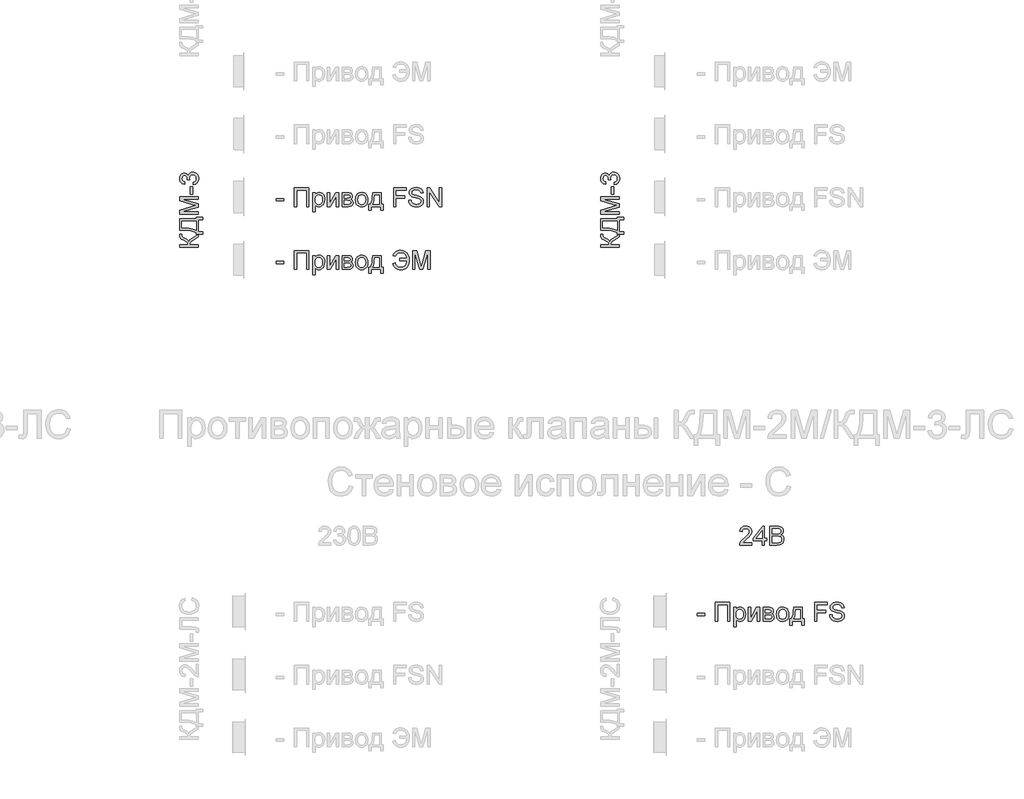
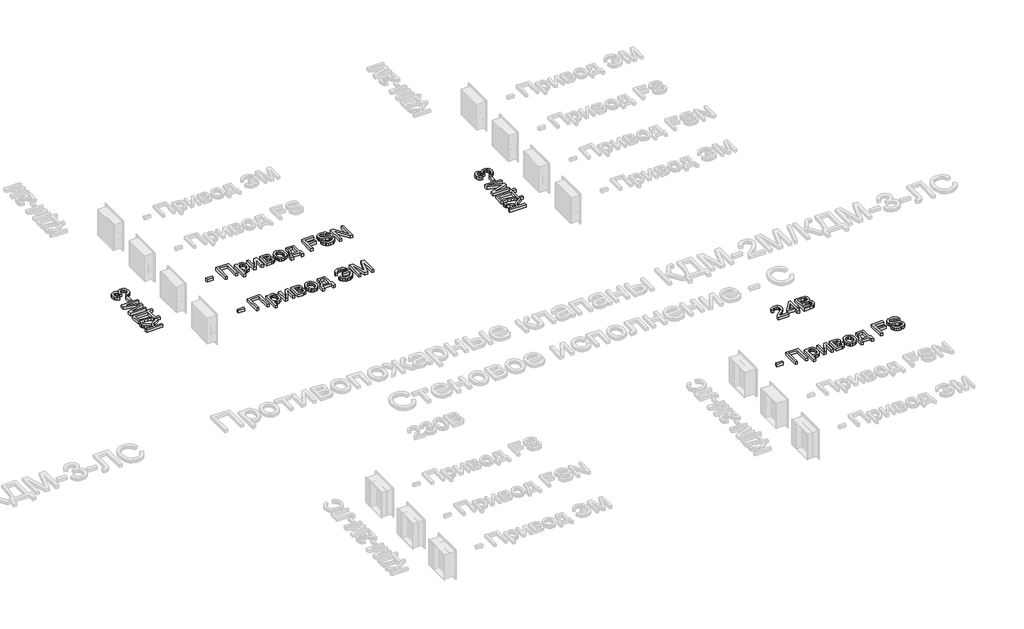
# One storey, part 18 of 23: 6 proxies.
"""IFC4 building model written with IfcOpenShell, lengths in millimetres."""

from ifc_helpers import new_model, si_unit, origin, origin_with_axes, place, context, project, spatial, polyline, outline, extrude, element, save

model = new_model("IFC4")

# Units and contexts
model_context = context("Model", 3, world=origin())
ifc_project = project(units=[si_unit("LENGTHUNIT", "METRE", prefix="MILLI")], contexts=[model_context])

# Site, building, storey
site = spatial("IfcSite", under=ifc_project)
building = spatial("IfcBuilding", under=site)
storey = spatial("IfcBuildingStorey", under=building, Name="Этаж 01", Elevation=0.0)

# Proxies
placement = place(None, origin())
element("IfcBuildingElementProxy", 1, Name="300 мм Arial", ObjectType="300 мм Arial", at=placement, inside=storey, context=model_context, shape_type="SweptSolid", body=[
    extrude(outline(polyline([(17804.7738082, -8434.3206311), (17804.7738082, -8396.6495148), (17922.4960467, -8396.6495148), (17922.4960467, -8434.3206311), (17804.7738082, -8434.3206311)])), origin_with_axes(), (0.0, 0.0, 1.0), 50.0),
    extrude(outline(polyline([(18087.3071805, -8222.4206019), (18322.7516574, -8222.4206019), (18322.7516574, -8523.7895324), (18285.0805411, -8523.7895324), (18285.0805411, -8260.0917182), (18124.9782968, -8260.0917182), (18124.9782968, -8523.7895324), (18087.3071805, -8523.7895324), (18087.3071805, -8222.4206019)])), origin_with_axes(), (0.0, 0.0, 1.0), 50.0),
    extrude(outline(polyline([(18383.9672214, -8608.5495441), (18383.9672214, -8302.4717241), (18421.6383378, -8302.4717241), (18421.6383378, -8339.4070764), (18433.9255964, -8321.1877206), (18447.684383, -8308.173895), (18463.724038, -8300.3655996), (18482.8539017, -8297.7628345), (18508.3297299, -8301.4048663), (18530.6049847, -8312.3309615), (18548.7415671, -8329.8789327), (18561.8013779, -8353.3865922), (18569.6924467, -8381.1432887), (18572.322803, -8411.438371), (18569.3521559, -8443.6556368), (18560.4402145, -8472.469994), (18545.8720875, -8496.4191119), (18525.9328834, -8514.0406595), (18502.7103324, -8524.8839813), (18478.292165, -8528.4984219), (18460.9741201, -8526.0795978), (18445.5138792, -8518.8231254), (18432.2793245, -8507.869439), (18421.6383378, -8494.3589728), (18421.6383378, -8608.5495441), (18383.9672214, -8608.5495441)]), holes=[polyline([(18421.6383378, -8414.8964618), (18425.7126308, -8448.668029), (18437.9355101, -8472.286053), (18455.970925, -8486.1919925), (18477.4828246, -8490.8273056), (18499.3442122, -8486.0264456), (18517.8394795, -8471.6238655), (18530.4486349, -8447.1413187), (18534.6516867, -8412.1005586), (18530.5498024, -8378.5129325), (18518.2441497, -8354.5638146), (18500.236326, -8340.2164168), (18479.027929, -8335.4339508), (18457.7367585, -8340.5199194), (18439.0391561, -8355.7778252), (18425.9885423, -8380.7294215), (18421.6383378, -8414.8964618)])]), origin_with_axes(), (0.0, 0.0, 1.0), 50.0),
    extrude(outline(polyline([(18614.7028088, -8302.4717241), (18652.3739251, -8302.4717241), (18652.3739251, -8471.2559835), (18744.9330351, -8302.4717241), (18793.6406113, -8302.4717241), (18793.6406113, -8523.7895324), (18755.969495, -8523.7895324), (18755.969495, -8356.0353426), (18663.9989962, -8523.7895324), (18614.7028088, -8523.7895324), (18614.7028088, -8302.4717241)])), origin_with_axes(), (0.0, 0.0, 1.0), 50.0),
    extrude(outline(polyline([(18850.1472857, -8302.4717241), (18933.1414638, -8302.4717241), (18959.8221055, -8303.7317199), (18978.6484666, -8307.5117074), (18992.4992238, -8314.6486181), (19004.2530535, -8325.9793836), (19012.2820781, -8340.7406486), (19014.9584196, -8358.1690581), (19013.3397388, -8372.2129533), (19008.4836965, -8384.325468), (19000.3718985, -8394.5617845), (18988.9859507, -8402.9770852), (19002.9286783, -8410.8037746), (19014.296232, -8423.3945359), (19021.856207, -8439.7560876), (19024.3761986, -8458.8951484), (19017.993446, -8487.6083381), (19002.8183137, -8507.8234538), (18978.7956194, -8519.7980127), (18945.8701809, -8523.7895324), (18850.1472857, -8523.7895324), (18850.1472857, -8302.4717241)]), holes=[polyline([(18887.818402, -8486.1184161), (18934.0243806, -8486.1184161), (18959.2059032, -8484.4169618), (18975.0064349, -8479.3125992), (18983.4861149, -8470.0327758), (18986.7050823, -8455.8049397), (18985.0955986, -8446.3779635), (18980.2671474, -8437.6683573), (18972.8543252, -8430.8533433), (18963.4917284, -8427.110144), (18930.3455607, -8424.9028521), (18887.818402, -8424.9028521), (18887.818402, -8486.1184161)]), polyline([(18887.818402, -8387.2317358), (18925.04806, -8387.2317358), (18955.7662065, -8385.3187494), (18970.7022156, -8377.6668039), (18975.6410313, -8371.3392336), (18977.2873033, -8363.8344409), (18974.3994296, -8352.5956459), (18965.7358086, -8345.3667647), (18950.0824297, -8341.4488215), (18926.2252823, -8340.1428404), (18887.818402, -8340.1428404), (18887.818402, -8387.2317358)])]), origin_with_axes(), (0.0, 0.0, 1.0), 50.0),
    extrude(outline(polyline([(19062.047315, -8413.1306282), (19064.0844615, -8384.4680223), (19070.1959011, -8359.7693448), (19080.3816339, -8339.0345959), (19094.6416597, -8322.2637754), (19108.9982546, -8311.5446138), (19124.8447715, -8303.8880698), (19142.1812106, -8299.2941433), (19161.0075717, -8297.7628345), (19181.7906051, -8299.6275364), (19200.5824773, -8305.221642), (19217.3831882, -8314.5451513), (19232.1927377, -8327.5980643), (19244.2799605, -8343.9389227), (19252.9136911, -8363.126268), (19258.0939294, -8385.1601003), (19259.8206756, -8410.0404195), (19256.767255, -8448.0978119), (19247.6069933, -8477.068519), (19232.606605, -8498.7643596), (19212.0328044, -8514.9971527), (19187.5962429, -8525.1231046), (19161.0075717, -8528.4984219), (19139.9210355, -8526.6406178), (19120.9544194, -8521.0672056), (19104.1077233, -8511.7781852), (19089.3809472, -8498.7735567), (19077.4224831, -8482.2740492), (19068.880723, -8462.500392), (19063.755667, -8439.452585), (19062.047315, -8413.1306282)]), holes=[polyline([(19099.7184313, -8413.0570518), (19104.0778329, -8447.1505157), (19117.1560378, -8471.4399245), (19136.8377246, -8485.9804603), (19161.0075717, -8490.8273056), (19185.0670541, -8485.9528692), (19204.7119527, -8471.3295599), (19217.7901576, -8446.7182544), (19222.1495593, -8411.8798294), (19217.7625665, -8378.7796469), (19204.6015881, -8354.821332), (19184.9290984, -8340.2807961), (19161.0075717, -8335.4339508), (19136.8377246, -8340.262402), (19117.1560378, -8354.7477556), (19104.0778329, -8378.981982), (19099.7184313, -8413.0570518)])]), origin_with_axes(), (0.0, 0.0, 1.0), 50.0),
    extrude(outline(polyline([(19335.1629082, -8302.4717241), (19476.4295943, -8302.4717241), (19476.4295943, -8486.1184161), (19504.6829316, -8486.1184161), (19504.6829316, -8585.0050964), (19467.0118152, -8585.0050964), (19467.0118152, -8523.7895324), (19311.6184605, -8523.7895324), (19311.6184605, -8585.0050964), (19273.9473442, -8585.0050964), (19273.9473442, -8486.1184161), (19297.4917919, -8486.1184161), (19314.6075017, -8455.1887373), (19326.5912577, -8414.2710624), (19333.4430598, -8363.3653913), (19335.1629082, -8302.4717241)]), holes=[polyline([(19368.1251349, -8340.1428404), (19365.0349262, -8386.2660455), (19359.2959671, -8425.9697099), (19350.9082576, -8459.2538334), (19339.8717977, -8486.1184161), (19438.758478, -8486.1184161), (19438.758478, -8340.1428404), (19368.1251349, -8340.1428404)])]), origin_with_axes(), (0.0, 0.0, 1.0), 50.0),
    extrude(outline(polyline([(19669.4940654, -8523.7895324), (19669.4940654, -8222.4206019), (19871.9763155, -8222.4206019), (19871.9763155, -8260.0917182), (19707.1651817, -8260.0917182), (19707.1651817, -8349.5606195), (19848.4318678, -8349.5606195), (19848.4318678, -8387.2317358), (19707.1651817, -8387.2317358), (19707.1651817, -8523.7895324), (19669.4940654, -8523.7895324)])), origin_with_axes(), (0.0, 0.0, 1.0), 50.0),
    extrude(outline(polyline([(19909.6474318, -8420.1939625), (19947.3185481, -8420.1939625), (19951.6411616, -8441.0988569), (19959.458654, -8457.901867), (19971.6539421, -8471.2375894), (19989.1099428, -8481.7406203), (20010.4470985, -8488.5556343), (20034.2858518, -8490.8273056), (20055.2735196, -8489.1074573), (20073.6492253, -8483.9479123), (20088.539249, -8475.780932), (20099.0698712, -8465.0387777), (20105.3330621, -8452.7055339), (20107.4207924, -8439.7652847), (20105.857294, -8427.1561293), (20101.1667985, -8416.2576252), (20091.6386549, -8406.9594078), (20075.5622117, -8399.1511124), (20020.7110062, -8384.7669264), (19984.7045559, -8375.2479798), (19961.665946, -8366.1888856), (19942.9131613, -8353.5153509), (19929.6234242, -8338.1562776), (19921.7047642, -8320.4427595), (19919.0652109, -8300.7058905), (19922.3301636, -8278.6421678), (19932.1250217, -8258.0683673), (19948.1922679, -8240.6307607), (19970.2743846, -8227.97562), (19996.7802824, -8220.2776893), (20026.1188715, -8217.7117124), (20057.9038759, -8220.3972509), (20085.7157547, -8228.4538666), (20108.5612266, -8241.7160126), (20125.4470102, -8260.0181418), (20136.1339822, -8282.2198202), (20140.3830192, -8307.1806136), (20102.7119029, -8307.1806136), (20095.7957214, -8284.7030237), (20081.3747472, -8268.4794277), (20058.841975, -8258.6569784), (20027.5903995, -8255.3828287), (19995.60306, -8258.6201902), (19973.658899, -8268.3322749), (19960.9669702, -8282.6244904), (19956.7363272, -8299.6022445), (19959.7345655, -8314.078401), (19968.7292803, -8325.7218662), (19989.9928596, -8336.1329266), (20030.2391499, -8346.7647163), (20071.7730271, -8356.8630771), (20096.8993674, -8365.6738508), (20118.3744789, -8379.340667), (20133.3564731, -8396.2080564), (20142.1580498, -8416.0920783), (20145.0919088, -8438.8087915), (20141.7165914, -8462.0313424), (20131.5906395, -8483.8743359), (20115.1279202, -8502.6731058), (20092.7423008, -8516.7629863), (20065.8225358, -8525.564563), (20035.7573798, -8528.4984219), (19998.8496186, -8525.3346367), (19968.4717629, -8515.8432813), (19944.2743246, -8499.9875673), (19925.907816, -8477.7307066), (19914.1171981, -8450.6178035), (19909.6474318, -8420.1939625)])), origin_with_axes(), (0.0, 0.0, 1.0), 50.0),
    extrude(outline(polyline([(20201.5985832, -8523.7895324), (20201.5985832, -8222.4206019), (20241.9184499, -8222.4206019), (20399.3719438, -8461.1760168), (20399.3719438, -8222.4206019), (20437.0430601, -8222.4206019), (20437.0430601, -8523.7895324), (20396.7231935, -8523.7895324), (20239.2696995, -8284.9605411), (20239.2696995, -8523.7895324), (20201.5985832, -8523.7895324)])), origin_with_axes(), (0.0, 0.0, 1.0), 50.0),
])
element("IfcBuildingElementProxy", 2, Name="300 мм Arial", ObjectType="300 мм Arial", at=placement, inside=storey, context=model_context, shape_type="SweptSolid", body=[
    extrude(outline(polyline([(17804.7738082, -9434.3206311), (17804.7738082, -9396.6495148), (17922.4960467, -9396.6495148), (17922.4960467, -9434.3206311), (17804.7738082, -9434.3206311)])), origin_with_axes(), (0.0, 0.0, 1.0), 50.0),
    extrude(outline(polyline([(18087.3071805, -9222.4206019), (18322.7516574, -9222.4206019), (18322.7516574, -9523.7895324), (18285.0805411, -9523.7895324), (18285.0805411, -9260.0917182), (18124.9782968, -9260.0917182), (18124.9782968, -9523.7895324), (18087.3071805, -9523.7895324), (18087.3071805, -9222.4206019)])), origin_with_axes(), (0.0, 0.0, 1.0), 50.0),
    extrude(outline(polyline([(18383.9672214, -9608.5495441), (18383.9672214, -9302.4717241), (18421.6383378, -9302.4717241), (18421.6383378, -9339.4070764), (18433.9255964, -9321.1877206), (18447.684383, -9308.173895), (18463.724038, -9300.3655996), (18482.8539017, -9297.7628345), (18508.3297299, -9301.4048663), (18530.6049847, -9312.3309615), (18548.7415671, -9329.8789327), (18561.8013779, -9353.3865922), (18569.6924467, -9381.1432887), (18572.322803, -9411.438371), (18569.3521559, -9443.6556368), (18560.4402145, -9472.469994), (18545.8720875, -9496.4191119), (18525.9328834, -9514.0406595), (18502.7103324, -9524.8839813), (18478.292165, -9528.4984219), (18460.9741201, -9526.0795978), (18445.5138792, -9518.8231254), (18432.2793245, -9507.869439), (18421.6383378, -9494.3589728), (18421.6383378, -9608.5495441), (18383.9672214, -9608.5495441)]), holes=[polyline([(18421.6383378, -9414.8964618), (18425.7126308, -9448.668029), (18437.9355101, -9472.286053), (18455.970925, -9486.1919925), (18477.4828246, -9490.8273056), (18499.3442122, -9486.0264456), (18517.8394795, -9471.6238655), (18530.4486349, -9447.1413187), (18534.6516867, -9412.1005586), (18530.5498024, -9378.5129325), (18518.2441497, -9354.5638146), (18500.236326, -9340.2164168), (18479.027929, -9335.4339508), (18457.7367585, -9340.5199194), (18439.0391561, -9355.7778252), (18425.9885423, -9380.7294215), (18421.6383378, -9414.8964618)])]), origin_with_axes(), (0.0, 0.0, 1.0), 50.0),
    extrude(outline(polyline([(18614.7028088, -9302.4717241), (18652.3739251, -9302.4717241), (18652.3739251, -9471.2559835), (18744.9330351, -9302.4717241), (18793.6406113, -9302.4717241), (18793.6406113, -9523.7895324), (18755.969495, -9523.7895324), (18755.969495, -9356.0353426), (18663.9989962, -9523.7895324), (18614.7028088, -9523.7895324), (18614.7028088, -9302.4717241)])), origin_with_axes(), (0.0, 0.0, 1.0), 50.0),
    extrude(outline(polyline([(18850.1472857, -9302.4717241), (18933.1414638, -9302.4717241), (18959.8221055, -9303.7317199), (18978.6484666, -9307.5117074), (18992.4992238, -9314.6486181), (19004.2530535, -9325.9793836), (19012.2820781, -9340.7406486), (19014.9584196, -9358.1690581), (19013.3397388, -9372.2129533), (19008.4836965, -9384.325468), (19000.3718985, -9394.5617845), (18988.9859507, -9402.9770852), (19002.9286783, -9410.8037746), (19014.296232, -9423.3945359), (19021.856207, -9439.7560876), (19024.3761986, -9458.8951484), (19017.993446, -9487.6083381), (19002.8183137, -9507.8234538), (18978.7956194, -9519.7980127), (18945.8701809, -9523.7895324), (18850.1472857, -9523.7895324), (18850.1472857, -9302.4717241)]), holes=[polyline([(18887.818402, -9486.1184161), (18934.0243806, -9486.1184161), (18959.2059032, -9484.4169618), (18975.0064349, -9479.3125992), (18983.4861149, -9470.0327758), (18986.7050823, -9455.8049397), (18985.0955986, -9446.3779635), (18980.2671474, -9437.6683573), (18972.8543252, -9430.8533433), (18963.4917284, -9427.110144), (18930.3455607, -9424.9028521), (18887.818402, -9424.9028521), (18887.818402, -9486.1184161)]), polyline([(18887.818402, -9387.2317358), (18925.04806, -9387.2317358), (18955.7662065, -9385.3187494), (18970.7022156, -9377.6668039), (18975.6410313, -9371.3392336), (18977.2873033, -9363.8344409), (18974.3994296, -9352.5956459), (18965.7358086, -9345.3667647), (18950.0824297, -9341.4488215), (18926.2252823, -9340.1428404), (18887.818402, -9340.1428404), (18887.818402, -9387.2317358)])]), origin_with_axes(), (0.0, 0.0, 1.0), 50.0),
    extrude(outline(polyline([(19062.047315, -9413.1306282), (19064.0844615, -9384.4680223), (19070.1959011, -9359.7693448), (19080.3816339, -9339.0345959), (19094.6416597, -9322.2637754), (19108.9982546, -9311.5446138), (19124.8447715, -9303.8880698), (19142.1812106, -9299.2941433), (19161.0075717, -9297.7628345), (19181.7906051, -9299.6275364), (19200.5824773, -9305.221642), (19217.3831882, -9314.5451513), (19232.1927377, -9327.5980643), (19244.2799605, -9343.9389227), (19252.9136911, -9363.126268), (19258.0939294, -9385.1601003), (19259.8206756, -9410.0404195), (19256.767255, -9448.0978119), (19247.6069933, -9477.068519), (19232.606605, -9498.7643596), (19212.0328044, -9514.9971527), (19187.5962429, -9525.1231046), (19161.0075717, -9528.4984219), (19139.9210355, -9526.6406178), (19120.9544194, -9521.0672056), (19104.1077233, -9511.7781852), (19089.3809472, -9498.7735567), (19077.4224831, -9482.2740492), (19068.880723, -9462.500392), (19063.755667, -9439.452585), (19062.047315, -9413.1306282)]), holes=[polyline([(19099.7184313, -9413.0570518), (19104.0778329, -9447.1505157), (19117.1560378, -9471.4399245), (19136.8377246, -9485.9804603), (19161.0075717, -9490.8273056), (19185.0670541, -9485.9528692), (19204.7119527, -9471.3295599), (19217.7901576, -9446.7182544), (19222.1495593, -9411.8798294), (19217.7625665, -9378.7796469), (19204.6015881, -9354.821332), (19184.9290984, -9340.2807961), (19161.0075717, -9335.4339508), (19136.8377246, -9340.262402), (19117.1560378, -9354.7477556), (19104.0778329, -9378.981982), (19099.7184313, -9413.0570518)])]), origin_with_axes(), (0.0, 0.0, 1.0), 50.0),
    extrude(outline(polyline([(19335.1629082, -9302.4717241), (19476.4295943, -9302.4717241), (19476.4295943, -9486.1184161), (19504.6829316, -9486.1184161), (19504.6829316, -9585.0050964), (19467.0118152, -9585.0050964), (19467.0118152, -9523.7895324), (19311.6184605, -9523.7895324), (19311.6184605, -9585.0050964), (19273.9473442, -9585.0050964), (19273.9473442, -9486.1184161), (19297.4917919, -9486.1184161), (19314.6075017, -9455.1887373), (19326.5912577, -9414.2710624), (19333.4430598, -9363.3653913), (19335.1629082, -9302.4717241)]), holes=[polyline([(19368.1251349, -9340.1428404), (19365.0349262, -9386.2660455), (19359.2959671, -9425.9697099), (19350.9082576, -9459.2538334), (19339.8717977, -9486.1184161), (19438.758478, -9486.1184161), (19438.758478, -9340.1428404), (19368.1251349, -9340.1428404)])]), origin_with_axes(), (0.0, 0.0, 1.0), 50.0),
    extrude(outline(polyline([(19768.3807457, -9349.5606195), (19881.3940946, -9349.5606195), (19878.6947605, -9329.0121108), (19873.0983556, -9310.7030837), (19864.6048801, -9294.6335383), (19853.2143338, -9280.8034746), (19839.1520445, -9269.681942), (19822.64334, -9261.7379902), (19803.6882202, -9256.9716191), (19782.2866851, -9255.3828287), (19751.8674426, -9259.2088014), (19727.6378147, -9270.6867197), (19709.5978014, -9289.8165834), (19697.7474026, -9316.5983927), (19660.0762863, -9307.1806136), (19666.8637091, -9287.2873947), (19676.1895177, -9269.6934383), (19688.053712, -9254.3987444), (19702.4562922, -9241.4033129), (19719.0799598, -9231.0382377), (19737.6074168, -9223.6346125), (19758.0386631, -9219.1924374), (19780.3736987, -9217.7117124), (19821.4477235, -9223.1471689), (19856.3781189, -9239.4535383), (19884.1256184, -9264.2119966), (19903.6509553, -9295.0037196), (19915.211647, -9330.6054997), (19919.0652109, -9369.7941292), (19917.8925871, -9402.0136942), (19912.0938471, -9431.5707132), (19901.6689911, -9458.4651863), (19886.6180189, -9482.6971135), (19866.9777189, -9502.7351859), (19842.7848792, -9517.0480948), (19814.0394998, -9525.6358401), (19780.7415807, -9528.4984219), (19757.0545788, -9526.9533175), (19735.6576422, -9522.3180044), (19716.5507711, -9514.5924825), (19699.7339654, -9503.7767518), (19685.2072251, -9489.8708124), (19672.9705502, -9472.8746642), (19663.0239408, -9452.7883073), (19655.3673968, -9429.6117416), (19693.0385131, -9420.1939625), (19705.7672301, -9451.0960501), (19725.3385523, -9473.1689698), (19751.7524795, -9486.4127217), (19785.0090119, -9490.8273056), (19804.7182898, -9489.0936617), (19822.5697636, -9483.89273), (19838.5634333, -9475.2245105), (19852.699299, -9463.0890032), (19864.3979464, -9447.9460605), (19873.0799615, -9430.2555351), (19878.7453442, -9410.0174268), (19881.3940946, -9387.2317358), (19768.3807457, -9387.2317358), (19768.3807457, -9349.5606195)])), origin_with_axes(), (0.0, 0.0, 1.0), 50.0),
    extrude(outline(polyline([(19970.8629958, -9523.7895324), (19970.8629958, -9222.4206019), (20035.6838034, -9222.4206019), (20097.3408258, -9434.8356659), (20109.7752372, -9479.2022346), (20123.2397182, -9431.156846), (20183.866671, -9222.4206019), (20248.6874786, -9222.4206019), (20248.6874786, -9523.7895324), (20211.0163623, -9523.7895324), (20211.0163623, -9260.0917182), (20135.3062477, -9523.7895324), (20084.2442268, -9523.7895324), (20008.5341121, -9260.0917182), (20008.5341121, -9523.7895324), (19970.8629958, -9523.7895324)])), origin_with_axes(), (0.0, 0.0, 1.0), 50.0),
])
element("IfcBuildingElementProxy", 3, Name="300 мм Arial", ObjectType="300 мм Arial", at=placement, inside=storey, context=model_context, shape_type="SweptSolid", body=[
    extrude(outline(polyline([(16262.355345, -9172.3550656), (16262.355345, -9134.6839493), (16394.2042521, -9134.6839493), (16391.7118516, -9109.1805299), (16384.23465, -9092.5614608), (16366.6406936, -9079.1245709), (16333.7980285, -9063.1676894), (16291.6755401, -9042.3823567), (16280.2620012, -9032.3575723), (16270.8166309, -9018.837909), (16264.4706665, -9002.7890569), (16262.355345, -8985.1767064), (16262.7968034, -8960.4550363), (16300.4679197, -8960.4550363), (16300.2471905, -8968.7691694), (16300.0264613, -8977.0833025), (16302.2889356, -8994.3369681), (16309.0763584, -9006.5138621), (16323.3317857, -9016.998499), (16347.8511207, -9028.8810874), (16378.3853263, -9043.4584115), (16395.0871689, -9055.5525321), (16410.6853655, -9081.5617892), (16416.8933742, -9066.9706695), (16427.7183019, -9052.4807174), (16463.2189144, -9023.8043159), (16563.7242755, -8960.4550363), (16563.7242755, -9004.1594174), (16478.817111, -9057.7230359), (16451.5846463, -9078.407201), (16434.4873306, -9095.4309404), (16425.4650246, -9112.8409558), (16422.4575893, -9134.6839493), (16563.7242755, -9134.6839493), (16563.7242755, -9172.3550656), (16262.355345, -9172.3550656)])), origin_with_axes(), (0.0, 0.0, 1.0), 50.0),
    extrude(outline(polyline([(16262.355345, -8899.2394723), (16262.355345, -8720.3016699), (16526.0531592, -8720.3016699), (16526.0531592, -8692.0483327), (16634.3576186, -8692.0483327), (16634.3576186, -8729.719449), (16563.7242755, -8729.719449), (16563.7242755, -8922.78392), (16634.3576186, -8922.78392), (16634.3576186, -8960.4550363), (16563.7242755, -8960.4550363), (16526.0531592, -8960.4550363), (16526.0531592, -8936.9105887), (16491.8815204, -8920.4294753), (16443.8131392, -8908.6572514), (16381.8480156, -8901.5939171), (16305.9861497, -8899.2394723), (16262.355345, -8899.2394723)]), holes=[polyline([(16300.0264613, -8757.9727862), (16300.0264613, -8861.568356), (16315.1831995, -8861.568356), (16418.4108874, -8869.2203015), (16478.0629529, -8880.551067), (16526.0531592, -8899.2394723), (16526.0531592, -8757.9727862), (16300.0264613, -8757.9727862)])]), origin_with_axes(), (0.0, 0.0, 1.0), 50.0),
    extrude(outline(polyline([(16563.7242755, -8644.9594373), (16262.355345, -8644.9594373), (16262.355345, -8580.1386297), (16474.7704091, -8518.4816073), (16519.1369777, -8506.0471959), (16471.0915891, -8492.5827149), (16262.355345, -8431.9557621), (16262.355345, -8367.1349545), (16563.7242755, -8367.1349545), (16563.7242755, -8404.8060708), (16300.0264613, -8404.8060708), (16563.7242755, -8480.5161854), (16563.7242755, -8531.5782064), (16300.0264613, -8607.288321), (16563.7242755, -8607.288321), (16563.7242755, -8644.9594373)])), origin_with_axes(), (0.0, 0.0, 1.0), 50.0),
    extrude(outline(polyline([(16474.2553743, -8324.7549487), (16436.584258, -8324.7549487), (16436.584258, -8207.0327102), (16474.2553743, -8207.0327102), (16474.2553743, -8324.7549487)])), origin_with_axes(), (0.0, 0.0, 1.0), 50.0),
    extrude(outline(polyline([(16483.6731533, -8174.0704835), (16478.9642638, -8136.3993671), (16502.6374702, -8127.9656724), (16518.6219429, -8115.6140344), (16527.7270223, -8098.7374479), (16530.7620487, -8076.7289075), (16526.5865881, -8050.9035915), (16514.0602061, -8030.9643873), (16495.3718008, -8018.2172762), (16472.7102699, -8013.9682392), (16451.1983702, -8018.180488), (16433.7515666, -8030.8172345), (16422.1908749, -8049.9470983), (16418.337311, -8073.6386988), (16422.4575893, -8100.052626), (16384.786473, -8095.8587713), (16385.2279314, -8089.8255066), (16382.5239988, -8067.2559462), (16374.4122008, -8047.0776187), (16360.6902023, -8032.8405855), (16341.1556684, -8028.0949078), (16324.8860872, -8031.5346044), (16311.6883206, -8041.8536944), (16302.9419262, -8057.5990438), (16300.0264613, -8077.3175187), (16302.9695173, -8097.0727819), (16311.7986852, -8113.2228015), (16326.513965, -8125.0134194), (16347.1153567, -8131.6904776), (16342.4064672, -8169.3615939), (16308.5797177, -8158.2699518), (16283.3246188, -8138.5330827), (16267.5976635, -8111.5305443), (16262.355345, -8078.6418939), (16264.9397161, -8054.9594905), (16272.6928291, -8033.2084675), (16284.9249054, -8014.86955), (16300.9461663, -8001.4234631), (16319.4046454, -7993.1737094), (16338.9483764, -7990.4237915), (16357.1585352, -7993.0357536), (16373.6764368, -8000.8716401), (16387.7479231, -8013.8210864), (16398.6188361, -8031.7737277), (16408.1469797, -8008.1924918), (16424.3705757, -7990.7180971), (16446.4067072, -7979.9023664), (16473.3724575, -7976.2971228), (16492.4839271, -7978.0997446), (16510.0870806, -7983.50761), (16526.1819179, -7992.5207188), (16540.768439, -8005.1390713), (16552.8717566, -8020.5119401), (16561.5169835, -8037.7885983), (16566.7041196, -8056.9690459), (16568.433165, -8078.0532827), (16566.9570385, -8097.1095701), (16562.528659, -8114.4736002), (16555.1480265, -8130.1453732), (16544.8151409, -8144.124889), (16532.1370077, -8155.8465291), (16517.720632, -8164.7446749), (16501.5660139, -8170.8193263), (16483.6731533, -8174.0704835)])), origin_with_axes(), (0.0, 0.0, 1.0), 50.0),
])
element("IfcBuildingElementProxy", 4, Name="300 мм Arial", ObjectType="300 мм Arial", at=placement, inside=storey, context=model_context, shape_type="SweptSolid", body=[
    extrude(outline(polyline([(22962.355345, -9172.3550656), (22962.355345, -9134.6839493), (23094.2042521, -9134.6839493), (23091.7118516, -9109.1805299), (23084.23465, -9092.5614608), (23066.6406936, -9079.1245709), (23033.7980285, -9063.1676894), (22991.6755401, -9042.3823567), (22980.2620012, -9032.3575723), (22970.8166309, -9018.837909), (22964.4706665, -9002.7890569), (22962.355345, -8985.1767064), (22962.7968034, -8960.4550363), (23000.4679197, -8960.4550363), (23000.2471905, -8968.7691694), (23000.0264613, -8977.0833025), (23002.2889356, -8994.3369681), (23009.0763584, -9006.5138621), (23023.3317857, -9016.998499), (23047.8511207, -9028.8810874), (23078.3853263, -9043.4584115), (23095.0871689, -9055.5525321), (23110.6853655, -9081.5617892), (23116.8933742, -9066.9706695), (23127.7183019, -9052.4807174), (23163.2189144, -9023.8043159), (23263.7242755, -8960.4550363), (23263.7242755, -9004.1594174), (23178.817111, -9057.7230359), (23151.5846463, -9078.407201), (23134.4873306, -9095.4309404), (23125.4650246, -9112.8409558), (23122.4575893, -9134.6839493), (23263.7242755, -9134.6839493), (23263.7242755, -9172.3550656), (22962.355345, -9172.3550656)])), origin_with_axes(), (0.0, 0.0, 1.0), 50.0),
    extrude(outline(polyline([(22962.355345, -8899.2394723), (22962.355345, -8720.3016699), (23226.0531592, -8720.3016699), (23226.0531592, -8692.0483327), (23334.3576186, -8692.0483327), (23334.3576186, -8729.719449), (23263.7242755, -8729.719449), (23263.7242755, -8922.78392), (23334.3576186, -8922.78392), (23334.3576186, -8960.4550363), (23263.7242755, -8960.4550363), (23226.0531592, -8960.4550363), (23226.0531592, -8936.9105887), (23191.8815204, -8920.4294753), (23143.8131392, -8908.6572514), (23081.8480156, -8901.5939171), (23005.9861497, -8899.2394723), (22962.355345, -8899.2394723)]), holes=[polyline([(23000.0264613, -8757.9727862), (23000.0264613, -8861.568356), (23015.1831995, -8861.568356), (23118.4108874, -8869.2203015), (23178.0629529, -8880.551067), (23226.0531592, -8899.2394723), (23226.0531592, -8757.9727862), (23000.0264613, -8757.9727862)])]), origin_with_axes(), (0.0, 0.0, 1.0), 50.0),
    extrude(outline(polyline([(23263.7242755, -8644.9594373), (22962.355345, -8644.9594373), (22962.355345, -8580.1386297), (23174.7704091, -8518.4816073), (23219.1369777, -8506.0471959), (23171.0915891, -8492.5827149), (22962.355345, -8431.9557621), (22962.355345, -8367.1349545), (23263.7242755, -8367.1349545), (23263.7242755, -8404.8060708), (23000.0264613, -8404.8060708), (23263.7242755, -8480.5161854), (23263.7242755, -8531.5782064), (23000.0264613, -8607.288321), (23263.7242755, -8607.288321), (23263.7242755, -8644.9594373)])), origin_with_axes(), (0.0, 0.0, 1.0), 50.0),
    extrude(outline(polyline([(23174.2553743, -8324.7549487), (23136.584258, -8324.7549487), (23136.584258, -8207.0327102), (23174.2553743, -8207.0327102), (23174.2553743, -8324.7549487)])), origin_with_axes(), (0.0, 0.0, 1.0), 50.0),
    extrude(outline(polyline([(23183.6731533, -8174.0704835), (23178.9642638, -8136.3993671), (23202.6374702, -8127.9656724), (23218.6219429, -8115.6140344), (23227.7270223, -8098.7374479), (23230.7620487, -8076.7289075), (23226.5865881, -8050.9035915), (23214.0602061, -8030.9643873), (23195.3718008, -8018.2172762), (23172.7102699, -8013.9682392), (23151.1983702, -8018.180488), (23133.7515666, -8030.8172345), (23122.1908749, -8049.9470983), (23118.337311, -8073.6386988), (23122.4575893, -8100.052626), (23084.786473, -8095.8587713), (23085.2279314, -8089.8255066), (23082.5239988, -8067.2559462), (23074.4122008, -8047.0776187), (23060.6902023, -8032.8405855), (23041.1556684, -8028.0949078), (23024.8860872, -8031.5346044), (23011.6883206, -8041.8536944), (23002.9419262, -8057.5990438), (23000.0264613, -8077.3175187), (23002.9695173, -8097.0727819), (23011.7986852, -8113.2228015), (23026.513965, -8125.0134194), (23047.1153567, -8131.6904776), (23042.4064672, -8169.3615939), (23008.5797177, -8158.2699518), (22983.3246188, -8138.5330827), (22967.5976635, -8111.5305443), (22962.355345, -8078.6418939), (22964.9397161, -8054.9594905), (22972.6928291, -8033.2084675), (22984.9249054, -8014.86955), (23000.9461663, -8001.4234631), (23019.4046454, -7993.1737094), (23038.9483764, -7990.4237915), (23057.1585352, -7993.0357536), (23073.6764368, -8000.8716401), (23087.7479231, -8013.8210864), (23098.6188361, -8031.7737277), (23108.1469797, -8008.1924918), (23124.3705757, -7990.7180971), (23146.4067072, -7979.9023664), (23173.3724575, -7976.2971228), (23192.4839271, -7978.0997446), (23210.0870806, -7983.50761), (23226.1819179, -7992.5207188), (23240.768439, -8005.1390713), (23252.8717566, -8020.5119401), (23261.5169835, -8037.7885983), (23266.7041196, -8056.9690459), (23268.433165, -8078.0532827), (23266.9570385, -8097.1095701), (23262.528659, -8114.4736002), (23255.1480265, -8130.1453732), (23244.8151409, -8144.124889), (23232.1370077, -8155.8465291), (23217.720632, -8164.7446749), (23201.5660139, -8170.8193263), (23183.6731533, -8174.0704835)])), origin_with_axes(), (0.0, 0.0, 1.0), 50.0),
])
element("IfcBuildingElementProxy", 5, Name="300 мм Arial", ObjectType="300 мм Arial", at=placement, inside=storey, context=model_context, shape_type="SweptSolid", body=[
    extrude(outline(polyline([(24504.7738082, -15034.3206311), (24504.7738082, -14996.6495148), (24622.4960467, -14996.6495148), (24622.4960467, -15034.3206311), (24504.7738082, -15034.3206311)])), origin_with_axes(), (0.0, 0.0, 1.0), 50.0),
    extrude(outline(polyline([(24787.3071805, -14822.4206019), (25022.7516574, -14822.4206019), (25022.7516574, -15123.7895324), (24985.0805411, -15123.7895324), (24985.0805411, -14860.0917182), (24824.9782968, -14860.0917182), (24824.9782968, -15123.7895324), (24787.3071805, -15123.7895324), (24787.3071805, -14822.4206019)])), origin_with_axes(), (0.0, 0.0, 1.0), 50.0),
    extrude(outline(polyline([(25083.9672214, -15208.5495441), (25083.9672214, -14902.4717241), (25121.6383378, -14902.4717241), (25121.6383378, -14939.4070764), (25133.9255964, -14921.1877206), (25147.684383, -14908.173895), (25163.724038, -14900.3655996), (25182.8539017, -14897.7628345), (25208.3297299, -14901.4048663), (25230.6049847, -14912.3309615), (25248.7415671, -14929.8789327), (25261.8013779, -14953.3865922), (25269.6924467, -14981.1432887), (25272.322803, -15011.438371), (25269.3521559, -15043.6556368), (25260.4402145, -15072.469994), (25245.8720875, -15096.4191119), (25225.9328834, -15114.0406595), (25202.7103324, -15124.8839813), (25178.292165, -15128.4984219), (25160.9741201, -15126.0795978), (25145.5138792, -15118.8231254), (25132.2793245, -15107.869439), (25121.6383378, -15094.3589728), (25121.6383378, -15208.5495441), (25083.9672214, -15208.5495441)]), holes=[polyline([(25121.6383378, -15014.8964618), (25125.7126308, -15048.668029), (25137.9355101, -15072.286053), (25155.970925, -15086.1919925), (25177.4828246, -15090.8273056), (25199.3442122, -15086.0264456), (25217.8394795, -15071.6238655), (25230.4486349, -15047.1413187), (25234.6516867, -15012.1005586), (25230.5498024, -14978.5129325), (25218.2441497, -14954.5638146), (25200.236326, -14940.2164168), (25179.027929, -14935.4339508), (25157.7367585, -14940.5199194), (25139.0391561, -14955.7778252), (25125.9885423, -14980.7294215), (25121.6383378, -15014.8964618)])]), origin_with_axes(), (0.0, 0.0, 1.0), 50.0),
    extrude(outline(polyline([(25314.7028088, -14902.4717241), (25352.3739251, -14902.4717241), (25352.3739251, -15071.2559835), (25444.9330351, -14902.4717241), (25493.6406113, -14902.4717241), (25493.6406113, -15123.7895324), (25455.969495, -15123.7895324), (25455.969495, -14956.0353426), (25363.9989962, -15123.7895324), (25314.7028088, -15123.7895324), (25314.7028088, -14902.4717241)])), origin_with_axes(), (0.0, 0.0, 1.0), 50.0),
    extrude(outline(polyline([(25550.1472857, -14902.4717241), (25633.1414638, -14902.4717241), (25659.8221055, -14903.7317199), (25678.6484666, -14907.5117074), (25692.4992238, -14914.6486181), (25704.2530535, -14925.9793836), (25712.2820781, -14940.7406486), (25714.9584196, -14958.1690581), (25713.3397388, -14972.2129533), (25708.4836965, -14984.325468), (25700.3718985, -14994.5617845), (25688.9859507, -15002.9770852), (25702.9286783, -15010.8037746), (25714.296232, -15023.3945359), (25721.856207, -15039.7560876), (25724.3761986, -15058.8951484), (25717.993446, -15087.6083381), (25702.8183137, -15107.8234538), (25678.7956194, -15119.7980127), (25645.8701809, -15123.7895324), (25550.1472857, -15123.7895324), (25550.1472857, -14902.4717241)]), holes=[polyline([(25587.818402, -15086.1184161), (25634.0243806, -15086.1184161), (25659.2059032, -15084.4169618), (25675.0064349, -15079.3125992), (25683.4861149, -15070.0327758), (25686.7050823, -15055.8049397), (25685.0955986, -15046.3779635), (25680.2671474, -15037.6683573), (25672.8543252, -15030.8533433), (25663.4917284, -15027.110144), (25630.3455607, -15024.9028521), (25587.818402, -15024.9028521), (25587.818402, -15086.1184161)]), polyline([(25587.818402, -14987.2317358), (25625.04806, -14987.2317358), (25655.7662065, -14985.3187494), (25670.7022156, -14977.6668039), (25675.6410313, -14971.3392336), (25677.2873033, -14963.8344409), (25674.3994296, -14952.5956459), (25665.7358086, -14945.3667647), (25650.0824297, -14941.4488215), (25626.2252823, -14940.1428404), (25587.818402, -14940.1428404), (25587.818402, -14987.2317358)])]), origin_with_axes(), (0.0, 0.0, 1.0), 50.0),
    extrude(outline(polyline([(25762.047315, -15013.1306282), (25764.0844615, -14984.4680223), (25770.1959011, -14959.7693448), (25780.3816339, -14939.0345959), (25794.6416597, -14922.2637754), (25808.9982546, -14911.5446138), (25824.8447715, -14903.8880698), (25842.1812106, -14899.2941433), (25861.0075717, -14897.7628345), (25881.7906051, -14899.6275364), (25900.5824773, -14905.221642), (25917.3831882, -14914.5451513), (25932.1927377, -14927.5980643), (25944.2799605, -14943.9389227), (25952.9136911, -14963.126268), (25958.0939294, -14985.1601003), (25959.8206756, -15010.0404195), (25956.767255, -15048.0978119), (25947.6069933, -15077.068519), (25932.606605, -15098.7643596), (25912.0328044, -15114.9971527), (25887.5962429, -15125.1231046), (25861.0075717, -15128.4984219), (25839.9210355, -15126.6406178), (25820.9544194, -15121.0672056), (25804.1077233, -15111.7781852), (25789.3809472, -15098.7735567), (25777.4224831, -15082.2740492), (25768.880723, -15062.500392), (25763.755667, -15039.452585), (25762.047315, -15013.1306282)]), holes=[polyline([(25799.7184313, -15013.0570518), (25804.0778329, -15047.1505157), (25817.1560378, -15071.4399245), (25836.8377246, -15085.9804603), (25861.0075717, -15090.8273056), (25885.0670541, -15085.9528692), (25904.7119527, -15071.3295599), (25917.7901576, -15046.7182544), (25922.1495593, -15011.8798294), (25917.7625665, -14978.7796469), (25904.6015881, -14954.821332), (25884.9290984, -14940.2807961), (25861.0075717, -14935.4339508), (25836.8377246, -14940.262402), (25817.1560378, -14954.7477556), (25804.0778329, -14978.981982), (25799.7184313, -15013.0570518)])]), origin_with_axes(), (0.0, 0.0, 1.0), 50.0),
    extrude(outline(polyline([(26035.1629082, -14902.4717241), (26176.4295943, -14902.4717241), (26176.4295943, -15086.1184161), (26204.6829316, -15086.1184161), (26204.6829316, -15185.0050964), (26167.0118152, -15185.0050964), (26167.0118152, -15123.7895324), (26011.6184605, -15123.7895324), (26011.6184605, -15185.0050964), (25973.9473442, -15185.0050964), (25973.9473442, -15086.1184161), (25997.4917919, -15086.1184161), (26014.6075017, -15055.1887373), (26026.5912577, -15014.2710624), (26033.4430598, -14963.3653913), (26035.1629082, -14902.4717241)]), holes=[polyline([(26068.1251349, -14940.1428404), (26065.0349262, -14986.2660455), (26059.2959671, -15025.9697099), (26050.9082576, -15059.2538334), (26039.8717977, -15086.1184161), (26138.758478, -15086.1184161), (26138.758478, -14940.1428404), (26068.1251349, -14940.1428404)])]), origin_with_axes(), (0.0, 0.0, 1.0), 50.0),
    extrude(outline(polyline([(26369.4940654, -15123.7895324), (26369.4940654, -14822.4206019), (26571.9763155, -14822.4206019), (26571.9763155, -14860.0917182), (26407.1651817, -14860.0917182), (26407.1651817, -14949.5606195), (26548.4318678, -14949.5606195), (26548.4318678, -14987.2317358), (26407.1651817, -14987.2317358), (26407.1651817, -15123.7895324), (26369.4940654, -15123.7895324)])), origin_with_axes(), (0.0, 0.0, 1.0), 50.0),
    extrude(outline(polyline([(26609.6474318, -15020.1939625), (26647.3185481, -15020.1939625), (26651.6411616, -15041.0988569), (26659.458654, -15057.901867), (26671.6539421, -15071.2375894), (26689.1099428, -15081.7406203), (26710.4470985, -15088.5556343), (26734.2858518, -15090.8273056), (26755.2735196, -15089.1074573), (26773.6492253, -15083.9479123), (26788.539249, -15075.780932), (26799.0698712, -15065.0387777), (26805.3330621, -15052.7055339), (26807.4207924, -15039.7652847), (26805.857294, -15027.1561293), (26801.1667985, -15016.2576252), (26791.6386549, -15006.9594078), (26775.5622117, -14999.1511124), (26720.7110062, -14984.7669264), (26684.7045559, -14975.2479798), (26661.665946, -14966.1888856), (26642.9131613, -14953.5153509), (26629.6234242, -14938.1562776), (26621.7047642, -14920.4427595), (26619.0652109, -14900.7058905), (26622.3301636, -14878.6421678), (26632.1250217, -14858.0683673), (26648.1922679, -14840.6307607), (26670.2743846, -14827.97562), (26696.7802824, -14820.2776893), (26726.1188715, -14817.7117124), (26757.9038759, -14820.3972509), (26785.7157547, -14828.4538666), (26808.5612266, -14841.7160126), (26825.4470102, -14860.0181418), (26836.1339822, -14882.2198202), (26840.3830192, -14907.1806136), (26802.7119029, -14907.1806136), (26795.7957214, -14884.7030237), (26781.3747472, -14868.4794277), (26758.841975, -14858.6569784), (26727.5903995, -14855.3828287), (26695.60306, -14858.6201902), (26673.658899, -14868.3322749), (26660.9669702, -14882.6244904), (26656.7363272, -14899.6022445), (26659.7345655, -14914.078401), (26668.7292803, -14925.7218662), (26689.9928596, -14936.1329266), (26730.2391499, -14946.7647163), (26771.7730271, -14956.8630771), (26796.8993674, -14965.6738508), (26818.3744789, -14979.340667), (26833.3564731, -14996.2080564), (26842.1580498, -15016.0920783), (26845.0919088, -15038.8087915), (26841.7165914, -15062.0313424), (26831.5906395, -15083.8743359), (26815.1279202, -15102.6731058), (26792.7423008, -15116.7629863), (26765.8225358, -15125.564563), (26735.7573798, -15128.4984219), (26698.8496186, -15125.3346367), (26668.4717629, -15115.8432813), (26644.2743246, -15099.9875673), (26625.907816, -15077.7307066), (26614.1171981, -15050.6178035), (26609.6474318, -15020.1939625)])), origin_with_axes(), (0.0, 0.0, 1.0), 50.0),
])
element("IfcBuildingElementProxy", 6, Name="300 мм Arial", ObjectType="300 мм Arial", at=placement, inside=storey, context=model_context, shape_type="SweptSolid", body=[
    extrude(outline(polyline([(25372.9728635, -13873.066365), (25372.9728635, -13910.7374813), (25175.1995029, -13910.7374813), (25179.2462048, -13884.7650124), (25188.5352252, -13864.4671233), (25202.1284649, -13844.7762395), (25221.7917576, -13824.1656508), (25249.2909367, -13801.1086467), (25289.9418972, -13765.0010289), (25314.3324735, -13738.3479783), (25326.5277616, -13716.716517), (25330.5928576, -13695.6736669), (25326.7576878, -13676.8105176), (25315.2521784, -13661.1295476), (25297.5662515, -13650.5621372), (25275.1898292, -13647.0396671), (25251.6913667, -13650.4793638), (25233.4352227, -13660.7984538), (25221.6538018, -13677.1875966), (25217.5795087, -13698.8374521), (25179.9083924, -13694.1285625), (25189.041063, -13657.6898509), (25197.5874216, -13643.1539136), (25208.787129, -13631.0735886), (25222.382668, -13621.5776346), (25238.1165211, -13614.7948103), (25275.9991696, -13609.3685508), (25296.1889933, -13610.876867), (25314.1577295, -13615.4018156), (25329.9053782, -13622.9433965), (25343.4319393, -13633.5016097), (25354.2959544, -13646.2947061), (25362.0559653, -13660.5409364), (25366.7119718, -13676.2403005), (25368.263974, -13693.3927985), (25366.5901109, -13711.4098192), (25361.5685216, -13729.1141403), (25352.6565803, -13747.1219639), (25339.3116609, -13766.0494926), (25318.0388846, -13788.6466441), (25285.3433722, -13817.6633365), (25242.0068732, -13853.899713), (25225.010725, -13873.066365), (25372.9728635, -13873.066365)])), origin_with_axes(), (0.0, 0.0, 1.0), 50.0),
    extrude(outline(polyline([(25533.0751078, -13910.7374813), (25533.0751078, -13840.1041382), (25396.5173112, -13840.1041382), (25396.5173112, -13802.4330219), (25542.4928869, -13614.0774404), (25570.7462241, -13614.0774404), (25570.7462241, -13802.4330219), (25608.4173404, -13802.4330219), (25608.4173404, -13840.1041382), (25570.7462241, -13840.1041382), (25570.7462241, -13910.7374813), (25533.0751078, -13910.7374813)]), holes=[polyline([(25533.0751078, -13802.4330219), (25533.0751078, -13686.0351586), (25442.8704426, -13802.4330219), (25533.0751078, -13802.4330219)])]), origin_with_axes(), (0.0, 0.0, 1.0), 50.0),
    extrude(outline(polyline([(25655.5062358, -13910.7374813), (25655.5062358, -13609.3685508), (25770.5061475, -13609.3685508), (25802.134802, -13611.5850399), (25826.8288809, -13618.2345069), (25845.7564096, -13629.4824989), (25860.0854133, -13645.4945628), (25869.1077192, -13664.3301209), (25872.1151545, -13684.0485959), (25869.5859658, -13702.1943753), (25861.9983997, -13719.2549028), (25849.2972738, -13734.1817147), (25831.4274059, -13745.9263474), (25852.7737586, -13757.0731719), (25868.5466992, -13774.0325319), (25878.286375, -13795.6823873), (25881.5329336, -13820.9006981), (25879.3164446, -13841.915957), (25872.6669775, -13861.4045057), (25862.7433607, -13877.9775896), (25850.7044224, -13890.2464542), (25835.9615515, -13899.1308043), (25817.9261367, -13905.5503452), (25769.6232307, -13910.7374813), (25655.5062358, -13910.7374813)]), holes=[polyline([(25693.1773521, -13873.066365), (25770.4325711, -13873.066365), (25798.3916027, -13871.594837), (25822.046415, -13863.3910685), (25837.718188, -13846.6524377), (25842.32591, -13834.8250316), (25843.8618173, -13821.2685801), (25842.0591955, -13805.5232307), (25836.6513302, -13791.9851732), (25827.20596, -13781.3993688), (25813.2908235, -13774.5107785), (25793.5815456, -13770.730791), (25766.7537511, -13769.4707951), (25693.1773521, -13769.4707951), (25693.1773521, -13873.066365)]), polyline([(25693.1773521, -13731.7996788), (25761.9712852, -13731.7996788), (25802.1439991, -13728.5623173), (25816.2062883, -13722.979708), (25826.3138461, -13714.6195897), (25832.4114902, -13703.610721), (25834.4440382, -13690.0818606), (25832.549446, -13676.9484733), (25826.8656691, -13665.5073433), (25817.6502252, -13656.5770079), (25805.1606314, -13650.9760045), (25756.7473609, -13647.0396671), (25693.1773521, -13647.0396671), (25693.1773521, -13731.7996788)])]), origin_with_axes(), (0.0, 0.0, 1.0), 50.0),
])

save(model, "model.ifc")
